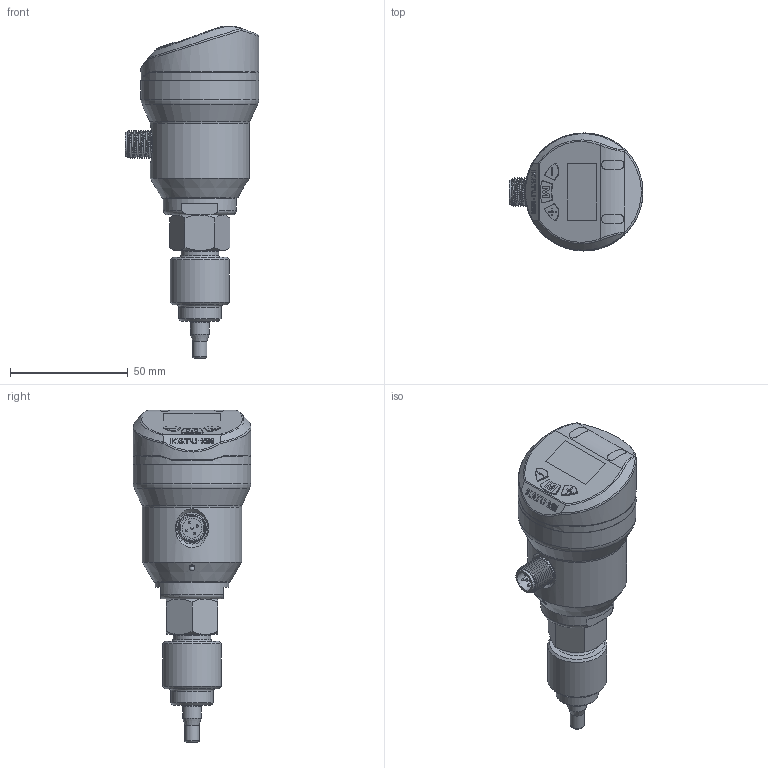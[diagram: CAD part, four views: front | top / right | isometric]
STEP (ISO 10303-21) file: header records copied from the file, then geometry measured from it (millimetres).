
FILE_DESCRIPTION( (''), '2;1');
FILE_NAME( 'QEKE_M18_L60_weld-socket.step', '2026-06-25T11:02:36+08:00', (''), (''), '', '', '');
FILE_SCHEMA (('AP203_CONFIGURATION_CONTROLLED_3D_DESIGN_OF_MECHANICAL_PARTS_AND_ASSEMBLIES_MIM_LF { 1 0 10303 403 2 1 2}'));
Length unit declared in the file: millimetre
Products named in the file (1): QEKE M18_L60_weld-socket
Bounding box: 56.7 x 50 x 140.7 mm (x, y, z)
Volume: 104827.2 mm3; surface area: 41778.2 mm2
Topology: 13 solids, 13 shells, 638 faces, 1573 edges, 1013 vertices
Faces by surface type: plane 331, cylinder 150, cone 59, bspline 53, torus 34, sphere 11
Full cylindrical faces by diameter (mm): 1 x10, 2.5 x1, 2.7 x5, 3.1 x1, 3.5 x2, 6 x2, 6.5 x1, 7 x1, 8 x3, 8.4 x1, 8.5 x1, 9.7 x1, 9.8 x1, 10.1 x1, 11 x1, 11.6 x1, 12 x2, 13.4 x1, 13.7 x1, 15.4 x1, 16 x1, 16.1 x1, 16.5 x6, 18 x1, 23 x3, 25 x1, 26.1 x5, 31 x1, 42 x1, 48 x1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
Entity records: 23467 total; most frequent: CARTESIAN_POINT 8623, ORIENTED_EDGE 2784, DIRECTION 2781, EDGE_CURVE 1392, AXIS2_PLACEMENT_3D 1017, VERTEX_POINT 947, EDGE_LOOP 811, LINE 747
